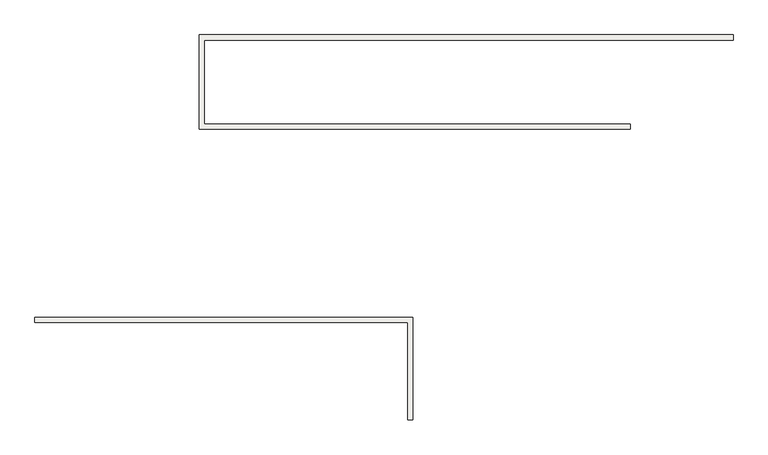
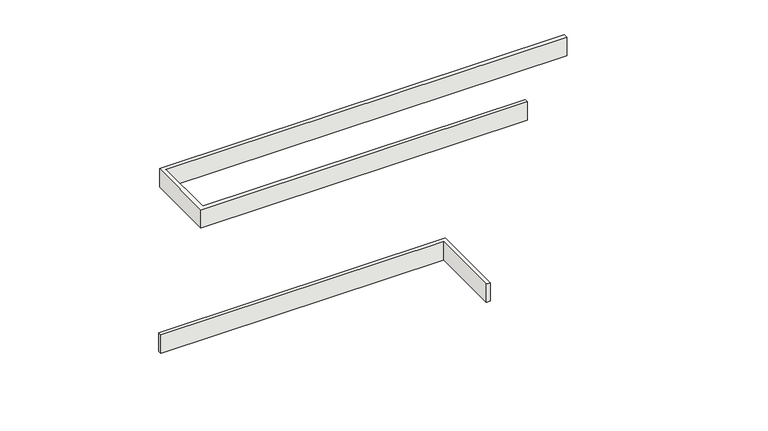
"""IFC4 building model written with IfcOpenShell, lengths in millimetres: roof geometry, banqueton2 : banqueton."""

import ifcopenshell
import ifcopenshell.guid

model = None  # the IFC model being written
_history = None  # IfcOwnerHistory: only IFC2X3 demands one
_inside = {}  # id of a spatial element -> (the spatial element, [elements in it])
_under = {}  # id of a project, library or spatial element -> (it, [spatial elements below it])
_declared = {}  # id of a project -> (the project, [libraries it declares])
_typed = {}  # id of a type object -> (the type object, [elements of that type])
_made_of = {}  # id of a material, layer set ... -> (it, [elements and type objects made of it])


def new_model(schema):
    """Start an empty IFC model of exactly this schema.

    Asked for "IFC4X3", IfcOpenShell would pick the latest addendum, in which some entities
    have other attributes; the version numbers below select the first issue.
    IFC2X3 requires an IfcOwnerHistory on every rooted entity: one is made here for all.
    """
    global model, _history
    if schema == "IFC4X3":
        model = ifcopenshell.file(schema_version=(4, 3, 0, 0))
    else:
        model = ifcopenshell.file(schema=schema)
    _inside.clear()
    _under.clear()
    _declared.clear()
    _typed.clear()
    _made_of.clear()
    _history = None
    if model.schema == "IFC2X3":
        org = make("IfcOrganization", Name="unknown")
        user = make(
            "IfcPersonAndOrganization",
            ThePerson=make("IfcPerson", FamilyName="unknown"),
            TheOrganization=org,
        )
        app = make(
            "IfcApplication",
            ApplicationDeveloper=org,
            Version="unknown",
            ApplicationFullName="unknown",
            ApplicationIdentifier="unknown",
        )
        _history = make(
            "IfcOwnerHistory",
            OwningUser=user,
            OwningApplication=app,
            ChangeAction="ADDED",
            CreationDate=0,
        )
    return model


def make(cls, **values):
    """One entity of the class cls with the attributes given. An attribute that is None is left unset."""
    return model.create_entity(
        cls, **{name: value for name, value in values.items() if value is not None}
    )


def rooted(cls, **values):
    """An entity with a GlobalId (a new one), such as an element, a storey or a relation."""
    return make(cls, GlobalId=ifcopenshell.guid.new(), OwnerHistory=_history, **values)


def si_unit(unit_type, name, prefix=None):
    """IfcSIUnit, for example si_unit("LENGTHUNIT", "METRE", prefix="MILLI")."""
    return make("IfcSIUnit", UnitType=unit_type, Prefix=prefix, Name=name)


def assignment(units):
    """IfcUnitAssignment: the units of a project."""
    return None if units is None else make("IfcUnitAssignment", Units=units)


def point(xyz):
    """IfcCartesianPoint."""
    return None if xyz is None else make("IfcCartesianPoint", Coordinates=xyz)


def direction(xyz):
    """IfcDirection."""
    return None if xyz is None else make("IfcDirection", DirectionRatios=xyz)


def frame(location, z_axis=None, x_axis=None):
    """IfcAxis2Placement3D, a coordinate frame: its origin and axes. An axis left out is left unset."""
    return make(
        "IfcAxis2Placement3D",
        Location=point(location),
        Axis=direction(z_axis),
        RefDirection=direction(x_axis),
    )


def origin():
    """The frame at (0, 0, 0) with its axes left unset."""
    return frame((0.0, 0.0, 0.0))


def origin_with_axes():
    """The frame at (0, 0, 0) with the z axis (0, 0, 1) and the x axis (1, 0, 0) written out."""
    return frame((0.0, 0.0, 0.0), z_axis=(0.0, 0.0, 1.0), x_axis=(1.0, 0.0, 0.0))


def place(relative_to, where):
    """IfcLocalPlacement: puts the frame where relative to a parent placement (None: the world)."""
    return make(
        "IfcLocalPlacement", PlacementRelTo=relative_to, RelativePlacement=where
    )


def context(
    kind, dimensions, precision=None, world=None, true_north=None, identifier=None
):
    """IfcGeometricRepresentationContext, for example the 3D "Model" context."""
    return make(
        "IfcGeometricRepresentationContext",
        ContextIdentifier=identifier,
        ContextType=kind,
        CoordinateSpaceDimension=dimensions,
        Precision=precision,
        WorldCoordinateSystem=world,
        TrueNorth=true_north,
    )


def project(units=None, contexts=None):
    """IfcProject with its units and contexts."""
    return rooted(
        "IfcProject",
        Name="project",
        RepresentationContexts=contexts,
        UnitsInContext=assignment(units),
    )


def spatial(cls, under=None, at=None, **own):
    """A site, building, storey or space (cls), placed at a placement, below another one or the project."""
    s = rooted(cls, ObjectPlacement=at, **own)
    if under is not None:
        _under.setdefault(under.id(), (under, []))[1].append(s)
    return s


def polyline(points):
    """IfcPolyline through the points."""
    return make("IfcPolyline", Points=[point(p) for p in points])


def outline(outer, holes=None, kind="AREA"):
    """IfcArbitraryClosedProfileDef: a profile drawn as a closed curve; with holes, ...WithVoids."""
    if holes is None:
        return make("IfcArbitraryClosedProfileDef", ProfileType=kind, OuterCurve=outer)
    return make(
        "IfcArbitraryProfileDefWithVoids",
        ProfileType=kind,
        OuterCurve=outer,
        InnerCurves=holes,
    )


def extrude(swept, where, along, depth):
    """IfcExtrudedAreaSolid: the profile swept, set in the frame where, extruded along a direction by depth."""
    return make(
        "IfcExtrudedAreaSolid",
        SweptArea=swept,
        Position=where,
        ExtrudedDirection=direction(along),
        Depth=depth,
    )


def shape(context_of_items, identifier, shape_type, items):
    """IfcShapeRepresentation: the items that make up one representation, for example the "Body"."""
    return make(
        "IfcShapeRepresentation",
        ContextOfItems=context_of_items,
        RepresentationIdentifier=identifier,
        RepresentationType=shape_type,
        Items=items,
    )


def source(mapping_origin, context_of_items, identifier, shape_type, items):
    """IfcRepresentationMap: a shape defined once, which mapped items show again and again."""
    return make(
        "IfcRepresentationMap",
        MappingOrigin=mapping_origin,
        MappedRepresentation=shape(context_of_items, identifier, shape_type, items),
    )


def transform(
    local_origin,
    x_axis=None,
    y_axis=None,
    z_axis=None,
    scale=None,
    scale2=None,
    scale3=None,
    uniform=True,
):
    """IfcCartesianTransformationOperator3D, or its non-uniform kind. x_axis, y_axis, z_axis: its Axis1, 2, 3."""
    if uniform:
        return make(
            "IfcCartesianTransformationOperator3D",
            Axis1=direction(x_axis),
            Axis2=direction(y_axis),
            LocalOrigin=point(local_origin),
            Scale=scale,
            Axis3=direction(z_axis),
        )
    return make(
        "IfcCartesianTransformationOperator3DnonUniform",
        Axis1=direction(x_axis),
        Axis2=direction(y_axis),
        LocalOrigin=point(local_origin),
        Scale=scale,
        Axis3=direction(z_axis),
        Scale2=scale2,
        Scale3=scale3,
    )


def mapped(mapping_source, mapping_target):
    """IfcMappedItem: shows the shape of a source again, moved by a transform."""
    return make(
        "IfcMappedItem", MappingSource=mapping_source, MappingTarget=mapping_target
    )


def made_of(thing, what):
    """Note that an element or type object is made of a material, layer set ...; save() writes the relation."""
    if what is not None:
        _made_of.setdefault(what.id(), (what, []))[1].append(thing)
    return thing


def element(
    cls,
    number,
    at=None,
    inside=None,
    cuts=None,
    type_object=None,
    material=None,
    context=None,
    identifier="Body",
    shape_type=None,
    held_by="IfcProductDefinitionShape",
    body=None,
    shapes=None,
    **own,
):
    """One element of the class cls, such as IfcWall. Its Tag is "e" and its number.

    at: its placement. inside: the storey or other place that contains it. cuts: it is an
    opening in that element (IfcRelVoidsElement). A single representation is given by context,
    identifier, shape_type and body (its items); several are given by shapes. held_by: the class
    of the entity that holds the representations. save() writes the other relations.
    """
    e = rooted(cls, Tag="e%d" % number, ObjectPlacement=at, **own)
    if body is not None:
        shapes = [shape(context, identifier, shape_type, body)]
    if shapes is not None:
        e.Representation = make(held_by, Representations=shapes)
    if inside is not None:
        _inside.setdefault(inside.id(), (inside, []))[1].append(e)
    if cuts is not None:
        rooted(
            "IfcRelVoidsElement", RelatingBuildingElement=cuts, RelatedOpeningElement=e
        )
    if type_object is not None:
        _typed.setdefault(type_object.id(), (type_object, []))[1].append(e)
    return made_of(e, material)


def aggregate(whole, parts):
    """IfcRelAggregates: a whole, such as a stair, and the parts it consists of."""
    return rooted("IfcRelAggregates", RelatingObject=whole, RelatedObjects=parts)


def save(model, path):
    """Write the relations noted so far, then the file.

    IfcRelAggregates (storeys below a building ...), IfcRelContainedInSpatialStructure (elements
    in a storey), IfcRelDefinesByType, IfcRelAssociatesMaterial and IfcRelDeclares: one each for
    every whole, place, type object, material and project.
    """
    for whole, parts in _under.values():
        aggregate(whole, parts)
    for where, things in _inside.values():
        rooted(
            "IfcRelContainedInSpatialStructure",
            RelatedElements=things,
            RelatingStructure=where,
        )
    for kind, things in _typed.values():
        rooted("IfcRelDefinesByType", RelatedObjects=things, RelatingType=kind)
    for what, things in _made_of.values():
        rooted("IfcRelAssociatesMaterial", RelatedObjects=things, RelatingMaterial=what)
    for by, libraries in _declared.values():
        rooted("IfcRelDeclares", RelatingContext=by, RelatedDefinitions=libraries)
    model.write(path)


def roof_d96188d7(model_context):
    return source(origin(), model_context, "Body", "SweptSolid", [
        extrude(outline(polyline([(53661.3794626, 31295.3489273), (53661.3794626, 31265.3489273), (50574.4822189, 31265.3489273), (50574.4822189, 30774.0100923), (53059.4822189, 30774.0100923), (53059.4822189, 30744.0100923), (50544.4822189, 30744.0100923), (50544.4822189, 31295.3489273), (53661.3794626, 31295.3489273)])), origin_with_axes(), (0.0, 0.0, 1.0), 150.0),
        extrude(outline(polyline([(51790.7527484, 29044.0100923), (51760.7527484, 29044.0100923), (51760.7527484, 29614.0100923), (49584.5059119, 29614.0100923), (49584.5059119, 29644.0100923), (51790.7527484, 29644.0100923), (51790.7527484, 29044.0100923)])), origin_with_axes(), (0.0, 0.0, 1.0), 150.0),
    ])


if __name__ == "__main__":
    model = new_model("IFC4")
    model_context = context("Model", 3, world=origin())
    ifc_project = project(units=[si_unit("LENGTHUNIT", "METRE", prefix="MILLI")], contexts=[model_context])
    site = spatial("IfcSite", under=ifc_project)
    building = spatial("IfcBuilding", under=site)
    placement = place(None, origin())
    roof_shape = roof_d96188d7(model_context)
    element("IfcRoof", 1, ObjectType="banqueton2 : banqueton", at=placement, inside=building, context=model_context, shape_type="MappedRepresentation", body=[
        mapped(roof_shape, transform((0.0, 0.0, 0.0), x_axis=(1.0, 0.0, 0.0), y_axis=(0.0, 1.0, 0.0), z_axis=(0.0, 0.0, 1.0))),
    ])
    save(model, "model.ifc")
